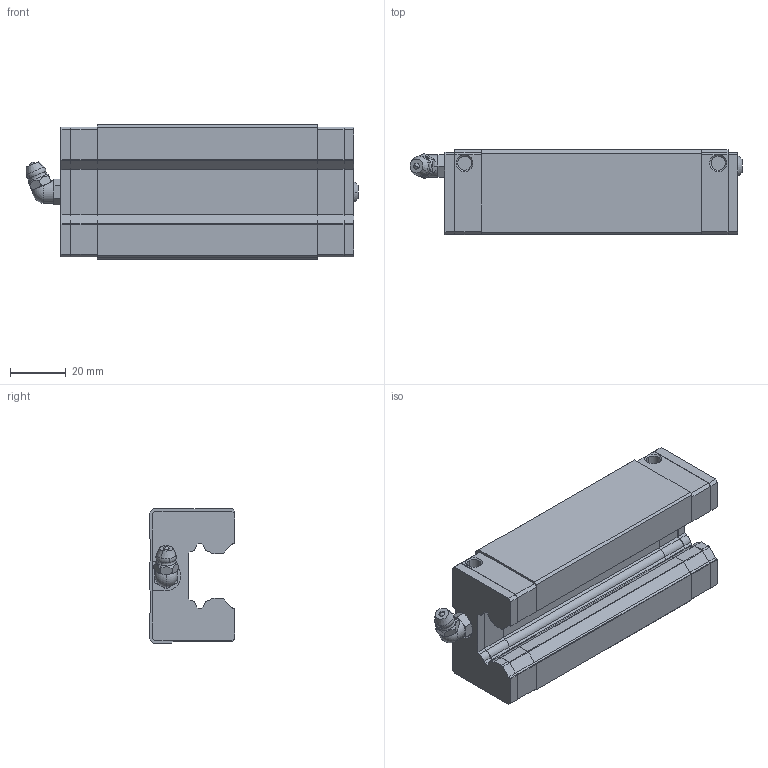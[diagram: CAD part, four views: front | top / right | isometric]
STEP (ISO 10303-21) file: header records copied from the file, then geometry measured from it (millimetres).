
FILE_DESCRIPTION (( 'STEP AP203' ), '1' );
FILE_NAME ('SGL25HA.STEP', '2025-06-27T05:20:54', ( 'Owner' ), ( 'Organization' ), 'SwSTEP 2.0', 'SolidWorks 2020', '' );
FILE_SCHEMA (( 'CONFIG_CONTROL_DESIGN' ));
Length unit declared in the file: millimetre
Products named in the file (1): SGL25HA
Bounding box: 118.6 x 30.5 x 48 mm (x, y, z)
Volume: 115937.8 mm3; surface area: 32614.3 mm2
Topology: 7 solids, 8 shells, 424 faces, 1105 edges, 707 vertices
Faces by surface type: plane 295, cylinder 94, cone 20, torus 7, sphere 6, bspline 2
Entity records: 13318 total; most frequent: CARTESIAN_POINT 2754, ORIENTED_EDGE 2202, DIRECTION 2154, EDGE_CURVE 1101, VECTOR 826, LINE 826, VERTEX_POINT 705, AXIS2_PLACEMENT_3D 664
